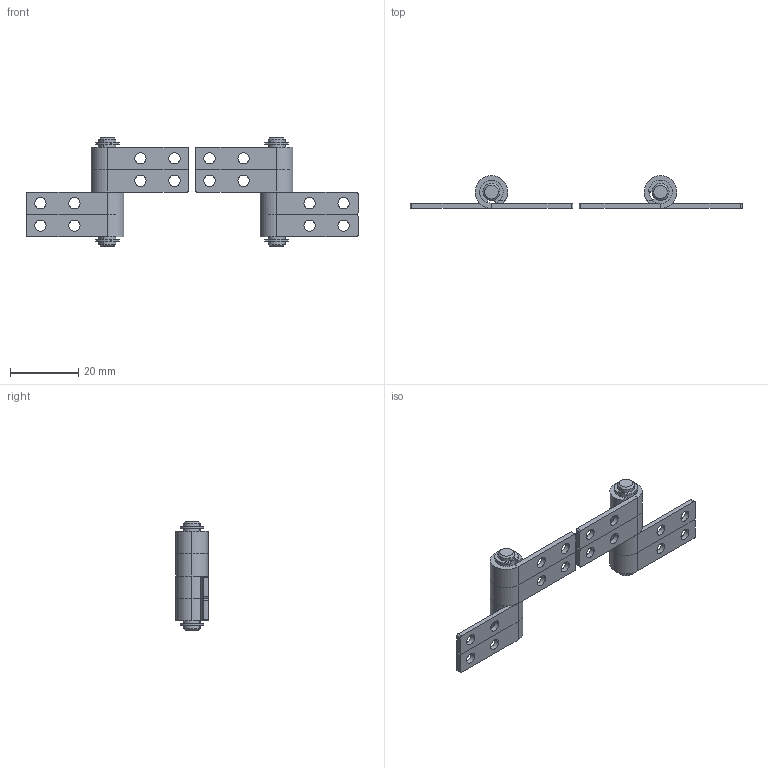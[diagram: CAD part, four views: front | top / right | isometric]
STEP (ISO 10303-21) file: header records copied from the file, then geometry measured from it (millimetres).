
FILE_DESCRIPTION (( 'STEP AP203' ), '1' );
FILE_NAME ('XG11-050-3LR.STEP', '2025-04-16T00:05:51', ( '微软用户' ), ( '微软中国' ), 'SwSTEP 2.0', 'SolidWorks 2024', '' );
FILE_SCHEMA (( 'CONFIG_CONTROL_DESIGN' ));
Length unit declared in the file: millimetre
Products named in the file (5): XG11-050-3LR; XG11-050-3R; XG11-050-3(1); XG11-050-3(2); XG11-050-3L
Assembly tree (12 placements, depth 3):
  XG11-050-3LR
    XG11-050-3L
      XG11-050-3(1)  x4
      XG11-050-3(2)
    XG11-050-3R
      XG11-050-3(2)
      XG11-050-3(1)  x4
Bounding box: 97.61 x 9.6 x 32 mm (x, y, z)
Volume: 4705.2 mm3; surface area: 7312.8 mm2
Topology: 10 solids, 10 shells, 220 faces, 536 edges, 336 vertices
Faces by surface type: cylinder 120, plane 92, cone 8
Entity records: 2233 total; most frequent: DIRECTION 308, CARTESIAN_POINT 257, ORIENTED_EDGE 236, AXIS2_PLACEMENT_3D 123, EDGE_CURVE 118, VERTEX_POINT 72, LINE 62, VECTOR 62
